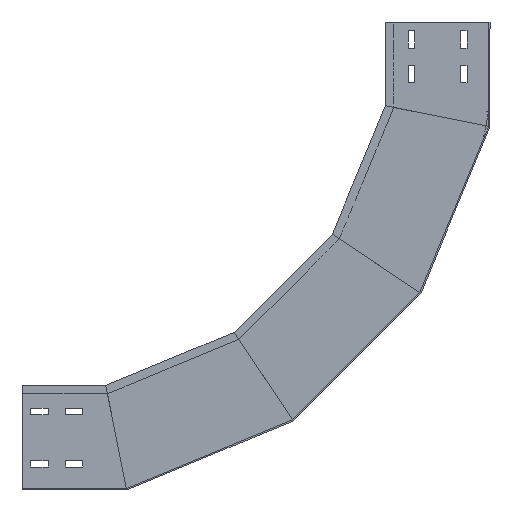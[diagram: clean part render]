
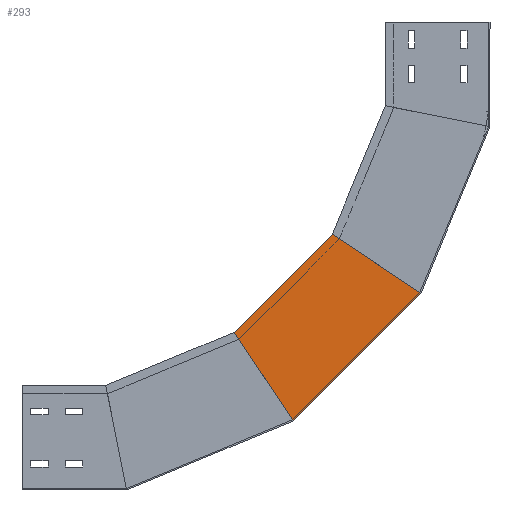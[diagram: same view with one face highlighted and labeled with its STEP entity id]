
A CAD part, left-side view. The second image highlights one B-rep face of the part: STEP entity #293.
In plain terms, the highlighted planar face has unit normal (-1, 0, 0) as drawn and (1, 0, 0) by its records, which use the part's own axes.
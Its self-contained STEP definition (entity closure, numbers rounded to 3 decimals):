
#96 = DIRECTION ( 'NONE',  ( -1., 0., 0. ) ) ;
#110 = CARTESIAN_POINT ( 'NONE',  ( 0., 141.128, -361.213 ) ) ;
#147 = DIRECTION ( 'NONE',  ( 0., 0.707, -0.707 ) ) ;
#196 = VERTEX_POINT ( 'NONE', #985 ) ;
#272 = AXIS2_PLACEMENT_3D ( 'NONE', #1992, #96, #2148 ) ;
#293 = ADVANCED_FACE ( 'NONE', ( #1402 ), #499, .F. ) ;
#301 = VERTEX_POINT ( 'NONE', #478 ) ;
#303 = VECTOR ( 'NONE', #147, 1000. ) ;
#478 = CARTESIAN_POINT ( 'NONE',  ( 0., 367.224, -445.262 ) ) ;
#499 = PLANE ( 'NONE',  #272 ) ;
#544 = ORIENTED_EDGE ( 'NONE', *, *, #574, .F. ) ;
#574 = EDGE_CURVE ( 'NONE', #301, #1634, #1590, .T. ) ;
#692 = EDGE_CURVE ( 'NONE', #1925, #1634, #707, .T. ) ;
#707 = LINE ( 'NONE', #899, #1330 ) ;
#802 = CARTESIAN_POINT ( 'NONE',  ( 0., 310.328, -530.413 ) ) ;
#827 = DIRECTION ( 'NONE',  ( 0., -0.556, -0.831 ) ) ;
#899 = CARTESIAN_POINT ( 'NONE',  ( 0., 99.115, -389.285 ) ) ;
#907 = CARTESIAN_POINT ( 'NONE',  ( 0., 99.115, -389.285 ) ) ;
#985 = CARTESIAN_POINT ( 'NONE',  ( 0., 226.279, -304.317 ) ) ;
#1196 = EDGE_CURVE ( 'NONE', #196, #301, #1827, .T. ) ;
#1228 = ORIENTED_EDGE ( 'NONE', *, *, #1196, .F. ) ;
#1330 = VECTOR ( 'NONE', #1632, 1000. ) ;
#1402 = FACE_OUTER_BOUND ( 'NONE', #1519, .T. ) ;
#1404 = LINE ( 'NONE', #110, #1778 ) ;
#1508 = EDGE_CURVE ( 'NONE', #196, #1925, #1404, .T. ) ;
#1519 = EDGE_LOOP ( 'NONE', ( #1228, #2065, #1917, #544 ) ) ;
#1590 = LINE ( 'NONE', #802, #2432 ) ;
#1632 = DIRECTION ( 'NONE',  ( 0., 0.707, -0.707 ) ) ;
#1634 = VERTEX_POINT ( 'NONE', #2185 ) ;
#1638 = DIRECTION ( 'NONE',  ( 0., -0.831, -0.556 ) ) ;
#1639 = CARTESIAN_POINT ( 'NONE',  ( 0., 205.181, -283.219 ) ) ;
#1778 = VECTOR ( 'NONE', #1638, 1000. ) ;
#1827 = LINE ( 'NONE', #1639, #303 ) ;
#1917 = ORIENTED_EDGE ( 'NONE', *, *, #692, .T. ) ;
#1925 = VERTEX_POINT ( 'NONE', #907 ) ;
#1992 = CARTESIAN_POINT ( 'NONE',  ( 0., 99.115, -389.285 ) ) ;
#2065 = ORIENTED_EDGE ( 'NONE', *, *, #1508, .T. ) ;
#2148 = DIRECTION ( 'NONE',  ( 0., 0., 1. ) ) ;
#2185 = CARTESIAN_POINT ( 'NONE',  ( 0., 282.256, -572.425 ) ) ;
#2432 = VECTOR ( 'NONE', #827, 1000. ) ;
